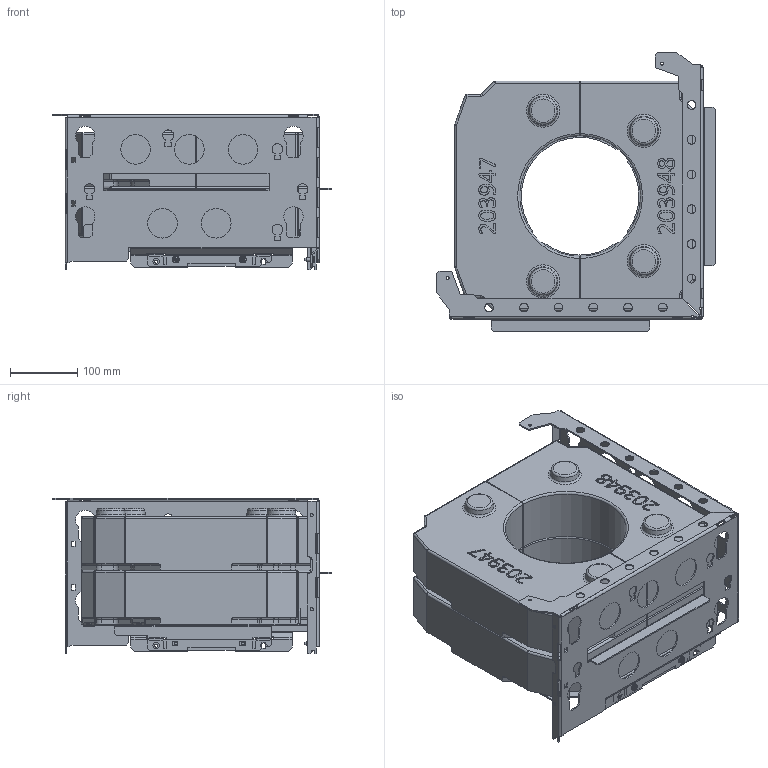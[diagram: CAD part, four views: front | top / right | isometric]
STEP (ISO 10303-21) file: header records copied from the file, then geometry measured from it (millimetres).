
FILE_DESCRIPTION(/* description */ ('Unknown'),/* implementation_level */ '2;1');
FILE_NAME(/* name */ 'Powerstone topp-set C410_C420',/* time_stamp */ '2026-04-30T13:12:28+02:00',/* author */ ('Unknown'),/* organization */ ('Unknown'),/* preprocessor_version */ 'ST-DEVELOPER v20',/* originating_system */ 'Solid Edge',/* authorisation */ 'Unknown');
FILE_SCHEMA (('AUTOMOTIVE_DESIGN {1 0 10303 214 3 1 1}'));
Length unit declared in the file: millimetre
Products named in the file (10): DSN1123818; DSN1123819_oa_0; DSN1132657_oa_1; DSN1129296; DSN1124826; DSN1055289; DSN1141063; DSN1141055; DSN1139599; DSN1141247
Assembly tree (14 placements, depth 5):
  DSN1123818
    DSN1123819_oa_0
      DSN1132657_oa_1
        DSN1129296
          DSN1124826
    DSN1055289  x4
    DSN1141063
      DSN1141055  x2
      DSN1139599  x2
      DSN1141247
Bounding box: 413.91 x 413.91 x 231 mm (x, y, z)
Volume: 14979775.5 mm3; surface area: 1279592.2 mm2
Topology: 10 solids, 10 shells, 1475 faces, 3964 edges, 2523 vertices
Faces by surface type: plane 781, cylinder 316, bspline 210, torus 124, sphere 24, cone 20
Full cylindrical faces by diameter (mm): 4.5 x12, 5 x4, 10 x4, 13 x12, 29 x8, 38 x1, 44 x10
Entity records: 41555 total; most frequent: CARTESIAN_POINT 13368, ORIENTED_EDGE 5864, DIRECTION 5311, EDGE_CURVE 2932, LINE 2139, VECTOR 2139, VERTEX_POINT 1943, AXIS2_PLACEMENT_3D 1586
